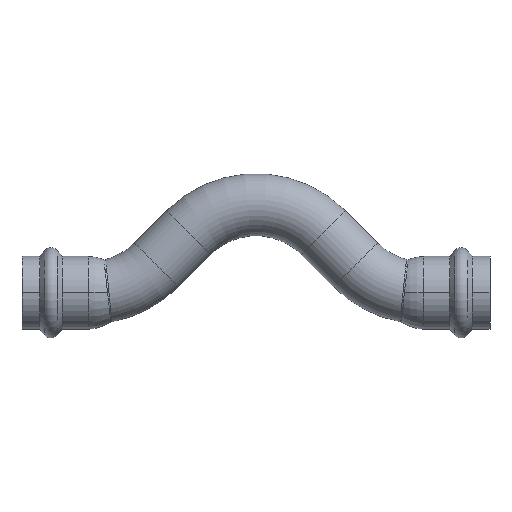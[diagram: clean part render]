
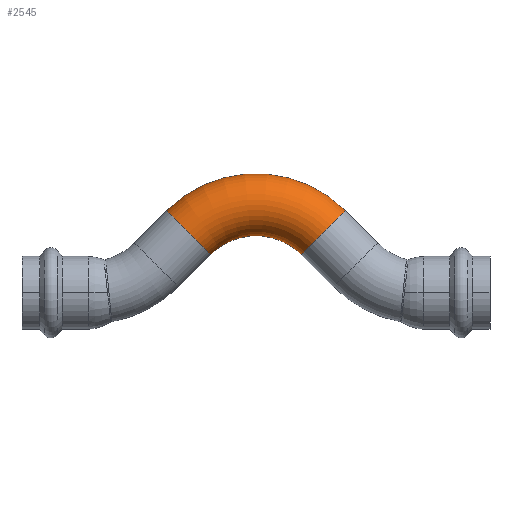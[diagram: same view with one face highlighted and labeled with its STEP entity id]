
A CAD part, top view. The second image highlights one B-rep face of the part: STEP entity #2545.
In plain terms, the highlighted toroidal (fillet/blend) face has major radius 33 mm and minor radius 10.75 mm.
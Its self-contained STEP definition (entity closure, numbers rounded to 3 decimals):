
#236 = CIRCLE ( 'NONE', #1296, 10.75 ) ;
#386 = ORIENTED_EDGE ( 'NONE', *, *, #1906, .T. ) ;
#457 = ORIENTED_EDGE ( 'NONE', *, *, #594, .F. ) ;
#504 = CARTESIAN_POINT ( 'NONE',  ( 15.733, 13.233, 0. ) ) ;
#590 = CIRCLE ( 'NONE', #3023, 22.25 ) ;
#594 = EDGE_CURVE ( 'NONE', #1914, #3610, #1254, .T. ) ;
#652 = AXIS2_PLACEMENT_3D ( 'NONE', #3388, #1466, #3702 ) ;
#861 = CARTESIAN_POINT ( 'NONE',  ( 0., -2.5, 0. ) ) ;
#897 = EDGE_LOOP ( 'NONE', ( #457, #1866, #386, #2980 ) ) ;
#951 = EDGE_CURVE ( 'NONE', #3610, #3768, #3656, .T. ) ;
#1030 = EDGE_CURVE ( 'NONE', #1914, #3227, #236, .T. ) ;
#1161 = CARTESIAN_POINT ( 'NONE',  ( -23.335, 20.835, 0. ) ) ;
#1189 = DIRECTION ( 'NONE',  ( -1., 0., 0. ) ) ;
#1254 = CIRCLE ( 'NONE', #3396, 43.75 ) ;
#1291 = TOROIDAL_SURFACE ( 'NONE', #2983, 33., 10.75 ) ;
#1296 = AXIS2_PLACEMENT_3D ( 'NONE', #1161, #3403, #1483 ) ;
#1466 = DIRECTION ( 'NONE',  ( 0.707, -0.707, 0. ) ) ;
#1483 = DIRECTION ( 'NONE',  ( 0., 0., -1. ) ) ;
#1685 = DIRECTION ( 'NONE',  ( -1., 0., 0. ) ) ;
#1709 = CARTESIAN_POINT ( 'NONE',  ( 0., -2.5, 0. ) ) ;
#1866 = ORIENTED_EDGE ( 'NONE', *, *, #1030, .T. ) ;
#1906 = EDGE_CURVE ( 'NONE', #3227, #3768, #590, .T. ) ;
#1914 = VERTEX_POINT ( 'NONE', #2147 ) ;
#2038 = DIRECTION ( 'NONE',  ( 0., 0., -1. ) ) ;
#2147 = CARTESIAN_POINT ( 'NONE',  ( -30.936, 28.436, 0. ) ) ;
#2158 = FACE_OUTER_BOUND ( 'NONE', #897, .T. ) ;
#2180 = DIRECTION ( 'NONE',  ( 0., 0., -1. ) ) ;
#2545 = ADVANCED_FACE ( 'NONE', ( #2158 ), #1291, .T. ) ;
#2716 = CARTESIAN_POINT ( 'NONE',  ( -15.733, 13.233, 0. ) ) ;
#2822 = DIRECTION ( 'NONE',  ( -1., 0., 0. ) ) ;
#2980 = ORIENTED_EDGE ( 'NONE', *, *, #951, .F. ) ;
#2983 = AXIS2_PLACEMENT_3D ( 'NONE', #3766, #2180, #2822 ) ;
#3023 = AXIS2_PLACEMENT_3D ( 'NONE', #861, #3111, #1189 ) ;
#3111 = DIRECTION ( 'NONE',  ( 0., 0., -1. ) ) ;
#3227 = VERTEX_POINT ( 'NONE', #2716 ) ;
#3388 = CARTESIAN_POINT ( 'NONE',  ( 23.335, 20.835, 0. ) ) ;
#3396 = AXIS2_PLACEMENT_3D ( 'NONE', #1709, #2038, #1685 ) ;
#3403 = DIRECTION ( 'NONE',  ( 0.707, 0.707, 0. ) ) ;
#3604 = CARTESIAN_POINT ( 'NONE',  ( 30.936, 28.436, 0. ) ) ;
#3610 = VERTEX_POINT ( 'NONE', #3604 ) ;
#3656 = CIRCLE ( 'NONE', #652, 10.75 ) ;
#3702 = DIRECTION ( 'NONE',  ( 0., 0., -1. ) ) ;
#3766 = CARTESIAN_POINT ( 'NONE',  ( 0., -2.5, 0. ) ) ;
#3768 = VERTEX_POINT ( 'NONE', #504 ) ;
